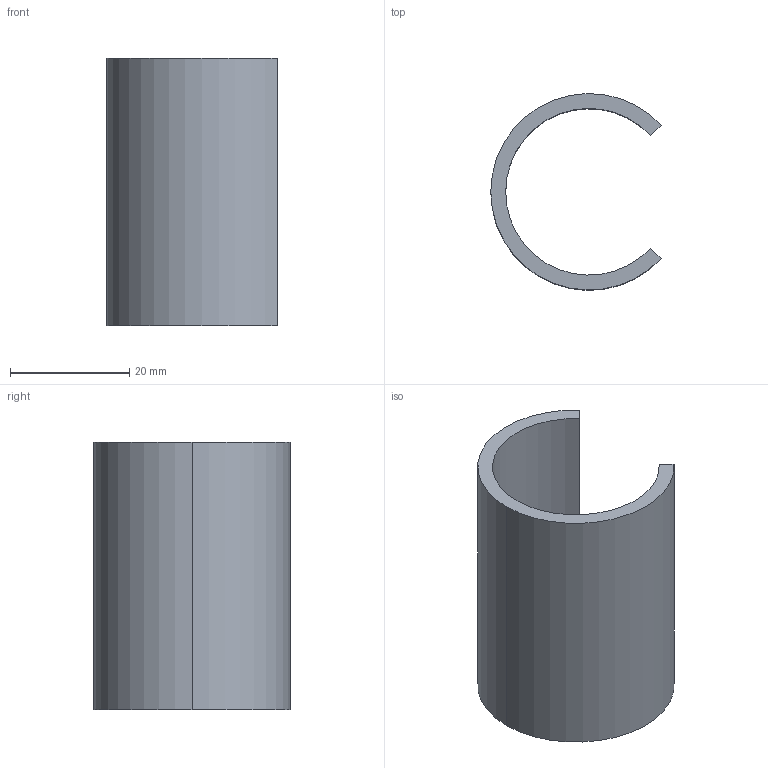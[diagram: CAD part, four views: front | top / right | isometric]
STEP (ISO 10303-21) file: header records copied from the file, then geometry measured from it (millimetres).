
FILE_DESCRIPTION (( 'STEP AP214' ), '1' );
FILE_NAME ('PJ-510.STEP', '2023-09-12T11:17:12', ( 'catia' ), ( 'HP Inc.' ), 'SwSTEP 2.0', 'SolidWorks 2021', '' );
FILE_SCHEMA (( 'AUTOMOTIVE_DESIGN' ));
Length unit declared in the file: millimetre
Products named in the file (1): PJ-510
Bounding box: 28.62 x 32.98 x 45 mm (x, y, z)
Volume: 8220.5 mm3; surface area: 7166.8 mm2
Topology: 1 solids, 1 shells, 8 faces, 18 edges, 12 vertices
Faces by surface type: cylinder 4, plane 4
Entity records: 264 total; most frequent: DIRECTION 44, CARTESIAN_POINT 39, ORIENTED_EDGE 36, EDGE_CURVE 18, AXIS2_PLACEMENT_3D 17, VERTEX_POINT 12, LINE 10, VECTOR 10
